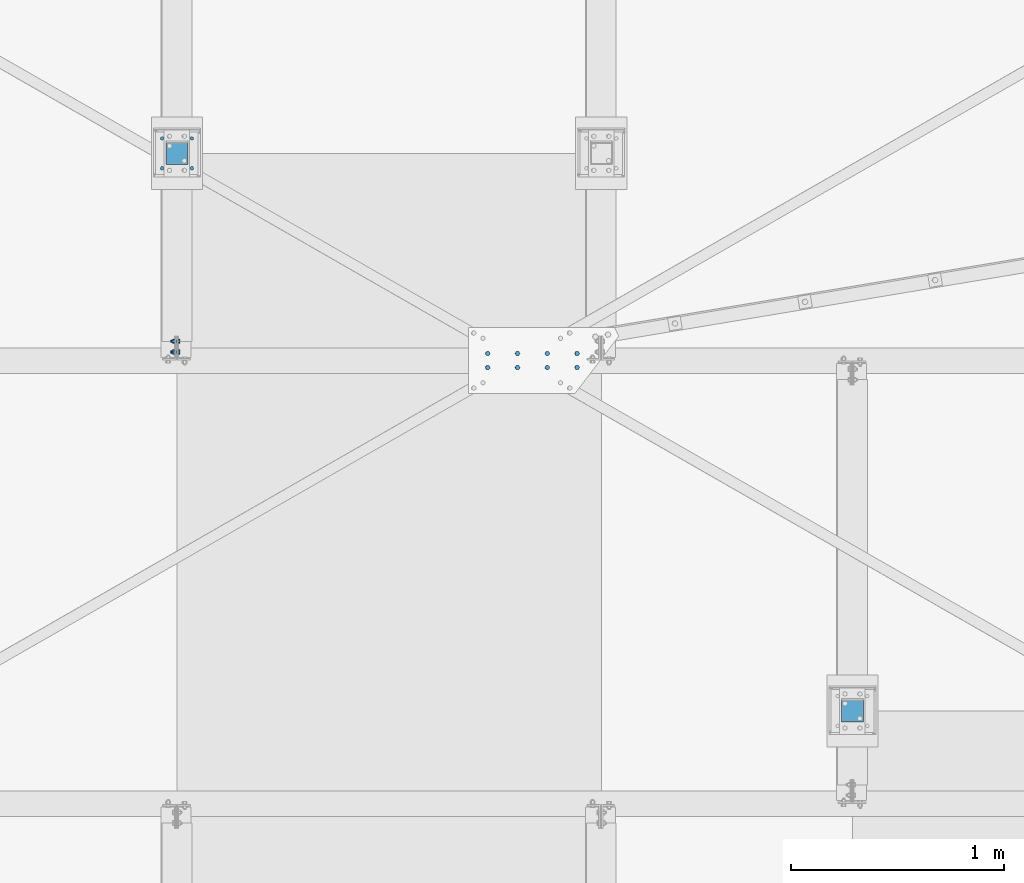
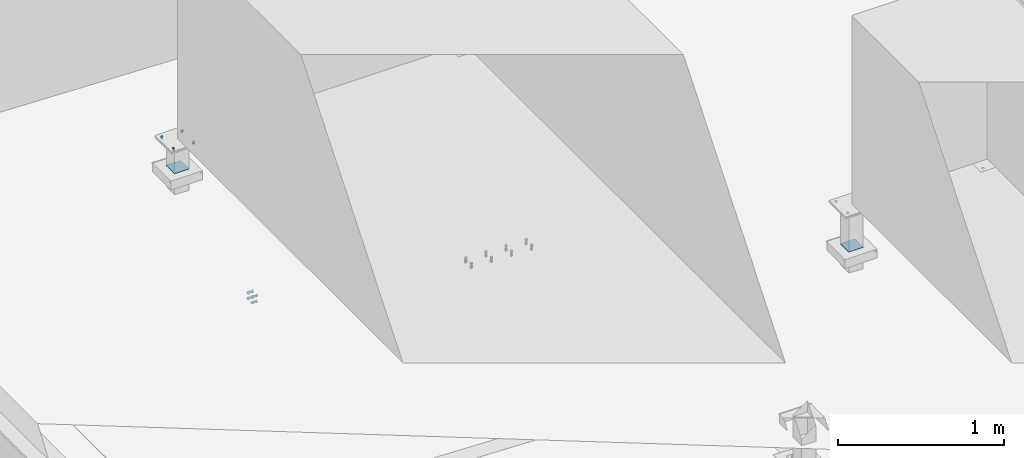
# One storey, part 384 of 3134: 5 mechanical fasteners, 4 elements without a shape of their own.
"""IFC2X3 building model written with IfcOpenShell, lengths in millimetres."""

from ifc_helpers import new_model, si_unit, frame, origin_with_axes, place, context, subcontext, project, spatial, faceted_brep, source, transform, mapped, material, type_object, element, aggregate, save


model = new_model("IFC2X3")

# Units and contexts
model_context = context("Model", 3, precision=1e-05, world=origin_with_axes())
body_context = subcontext(model_context, "Body", "Model", "MODEL_VIEW")
ifc_project = project(units=[si_unit("LENGTHUNIT", "METRE", prefix="MILLI"), si_unit("AREAUNIT", "SQUARE_METRE"), si_unit("VOLUMEUNIT", "CUBIC_METRE"), si_unit("MASSUNIT", "GRAM", prefix="KILO"), si_unit("TIMEUNIT", "SECOND"), si_unit("PLANEANGLEUNIT", "RADIAN"), si_unit("SOLIDANGLEUNIT", "STERADIAN"), si_unit("THERMODYNAMICTEMPERATUREUNIT", "DEGREE_CELSIUS"), si_unit("LUMINOUSINTENSITYUNIT", "LUMEN")], contexts=[model_context])

# Site, building, storey
site_placement = place(None, origin_with_axes())
site = spatial("IfcSite", under=ifc_project, at=site_placement, CompositionType="ELEMENT")
building_placement = place(site_placement, origin_with_axes())
building = spatial("IfcBuilding", under=site, at=building_placement, Name="Undefined", CompositionType="ELEMENT")
storey_placement = place(building_placement, origin_with_axes())
storey = spatial("IfcBuildingStorey", under=building, at=storey_placement, Name="Undefined", CompositionType="ELEMENT", Elevation=0.0)

# Assembly, mechanical fastener
assembly_1_placement = place(storey_placement, origin_with_axes())
assembly_1 = element("IfcElementAssembly", 1, at=assembly_1_placement, inside=storey, AssemblyPlace="NOTDEFINED", PredefinedType="RIGID_FRAME")
ifc_material_1 = material(Name="6.8")
mechanical_fastener_type = type_object("IfcMechanicalFastenerType", Name="Bolt assembly")
shared_shape_1 = source(origin_with_axes(), body_context, "Body", "Brep", [
    faceted_brep([(51.5, 1.36424205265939e-12, 50.0), (51.3858192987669, 1.36424205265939e-12, 50.5740251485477), (51.0606601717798, 1.36424205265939e-12, 51.0606601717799), (50.5740251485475, 1.36424205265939e-12, 51.385819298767), (-50.0000000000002, 1.36424205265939e-12, 51.5), (-50.7500000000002, 1.36424205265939e-12, 51.2990381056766), (-51.2990381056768, 1.36424205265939e-12, 50.7499999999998), (-51.5, 1.36424205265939e-12, 49.9999999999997), (-51.5, 1.36424205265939e-12, -50.0000000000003), (-51.2990381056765, 1.36424205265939e-12, -50.7500000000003), (-50.7499999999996, 1.36424205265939e-12, -51.2990381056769), (-49.9999999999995, 1.36424205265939e-12, -51.5), (50.0000000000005, 1.36424205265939e-12, -51.5), (50.7500000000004, 1.36424205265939e-12, -51.2990381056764), (51.2990381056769, 1.36424205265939e-12, -50.7499999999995), (51.5, 1.36424205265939e-12, -49.9999999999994), (51.5, 5.10000000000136, -49.9999999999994), (51.2990381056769, 5.10000000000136, -50.7499999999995), (50.7500000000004, 5.10000000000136, -51.2990381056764), (50.0000000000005, 5.10000000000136, -51.5), (-49.9999999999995, 5.10000000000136, -51.5), (-50.7499999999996, 5.10000000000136, -51.2990381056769), (-51.2990381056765, 5.10000000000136, -50.7500000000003), (-51.5, 5.10000000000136, -50.0000000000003), (-51.5, 5.10000000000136, 49.9999999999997), (-51.2990381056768, 5.10000000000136, 50.7499999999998), (-50.7500000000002, 5.10000000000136, 51.2990381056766), (-50.0000000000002, 5.10000000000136, 51.5), (50.5740251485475, 5.10000000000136, 51.385819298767), (51.0606601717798, 5.10000000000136, 51.0606601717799), (51.3858192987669, 5.10000000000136, 50.5740251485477), (51.5, 5.10000000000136, 50.0)], [[[0, 1, 2, 3, 4, 5, 6, 7, 8, 9, 10, 11, 12, 13, 14, 15]], [[16, 17, 18, 19, 20, 21, 22, 23, 24, 25, 26, 27, 28, 29, 30, 31]], [[0, 31, 30, 1]], [[1, 30, 29, 2]], [[2, 29, 28, 3]], [[3, 28, 27, 4]], [[4, 27, 26, 5]], [[5, 26, 25, 6]], [[6, 25, 24, 7]], [[7, 24, 23, 8]], [[8, 23, 22, 9]], [[9, 22, 21, 10]], [[10, 21, 20, 11]], [[11, 20, 19, 12]], [[12, 19, 18, 13]], [[13, 18, 17, 14]], [[14, 17, 16, 15]], [[15, 16, 31, 0]]]),
])
mechanical_fastener_1_placement = place(assembly_1_placement, frame((73830.0, 24940.0, 4274.22), z_axis=(0.0, -1.0, 0.0), x_axis=(-1.0, 0.0, 0.0)))
mechanical_fastener_1 = element("IfcMechanicalFastener", 2, at=mechanical_fastener_1_placement, type_object=mechanical_fastener_type, material=ifc_material_1, Name="Bolt assembly", NominalDiameter=10.0, NominalLength=5.0, context=body_context, shape_type="MappedRepresentation", body=[
    mapped(shared_shape_1, transform((0.0, 0.0, 0.0))),
])

assembly_2_placement = place(storey_placement, origin_with_axes())
assembly_2 = element("IfcElementAssembly", 3, at=assembly_2_placement, inside=storey, AssemblyPlace="NOTDEFINED", PredefinedType="RIGID_FRAME")
mechanical_fastener_2_placement = place(assembly_2_placement, frame((77004.0, 22320.0, 4175.8), z_axis=(0.0, -1.0, 0.0), x_axis=(-1.0, 0.0, 0.0)))
mechanical_fastener_2 = element("IfcMechanicalFastener", 4, at=mechanical_fastener_2_placement, type_object=mechanical_fastener_type, material=ifc_material_1, Name="Bolt assembly", NominalDiameter=10.0, NominalLength=5.0, context=body_context, shape_type="MappedRepresentation", body=[
    mapped(shared_shape_1, transform((0.0, 0.0, 0.0))),
])
aggregate(assembly_2, [mechanical_fastener_2])

assembly_3_placement = place(storey_placement, origin_with_axes())
assembly_3 = element("IfcElementAssembly", 5, at=assembly_3_placement, inside=storey, AssemblyPlace="NOTDEFINED", PredefinedType="RIGID_FRAME")
ifc_material_2 = material(Name="8.8")
shared_shape_2 = source(origin_with_axes(), body_context, "Body", "Brep", [
    faceted_brep([(10.9696551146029, -14.250187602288, 0.0), (5.48482755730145, -14.250187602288, 9.5), (-5.48482755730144, -14.250187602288, 9.5), (-10.9696551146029, -14.250187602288, 1.34339530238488e-15), (-5.48482755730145, -14.250187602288, -9.5), (5.48482755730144, -14.250187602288, -9.50000000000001), (5.48482755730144, -6.25018760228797, -9.50000000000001), (-5.48482755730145, -6.25018760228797, -9.5), (-10.9696551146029, -6.25018760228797, 1.34339530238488e-15), (-5.48482755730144, -6.25018760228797, 9.5), (5.48482755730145, -6.25018760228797, 9.5), (10.9696551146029, -6.25018760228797, 0.0), (6.0, -6.25018760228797, 0.0), (5.19615242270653, -6.25018760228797, 3.00000000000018), (2.99999999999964, -6.25018760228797, 5.19615242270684), (-6.21801588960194e-13, -6.25018760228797, 6.0), (-3.00000000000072, -6.25018760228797, 5.19615242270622), (-5.19615242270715, -6.25018760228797, 2.9999999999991), (-6.0, -6.25018760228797, -1.24360317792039e-12), (-5.19615242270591, -6.25018760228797, -3.00000000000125), (-2.99999999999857, -6.25018760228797, -5.19615242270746), (1.85874342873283e-12, -6.25018760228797, -6.0), (3.00000000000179, -6.25018760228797, -5.1961524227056), (5.19615242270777, -6.25018760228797, -2.99999999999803), (5.19615242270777, 28.749812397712, -2.99999999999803), (3.00000000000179, 28.749812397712, -5.1961524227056), (1.85874342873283e-12, 28.749812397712, -6.0), (-2.99999999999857, 28.749812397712, -5.19615242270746), (-5.19615242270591, 28.749812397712, -3.00000000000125), (-6.0, 28.749812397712, -1.24360317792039e-12), (-5.19615242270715, 28.749812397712, 2.9999999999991), (-3.00000000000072, 28.749812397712, 5.19615242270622), (-6.21801588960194e-13, 28.749812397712, 6.0), (2.99999999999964, 28.749812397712, 5.19615242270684), (5.19615242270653, 28.749812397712, 3.00000000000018), (6.0, 28.749812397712, 0.0), (10.9696551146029, 11.2575524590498, 0.0), (5.48482755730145, 11.2575524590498, 9.5), (-5.48482755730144, 11.2575524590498, 9.5), (-10.9696551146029, 11.2575524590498, 1.34339530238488e-15), (-5.48482755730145, 11.2575524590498, -9.5), (5.48482755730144, 11.2575524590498, -9.50000000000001), (5.48482755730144, 21.2575524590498, -9.50000000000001), (-5.48482755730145, 21.2575524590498, -9.5), (-10.9696551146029, 21.2575524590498, 1.34339530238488e-15), (-5.48482755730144, 21.2575524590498, 9.5), (5.48482755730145, 21.2575524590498, 9.5), (10.9696551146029, 21.2575524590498, 0.0)], [[[0, 1, 2, 3, 4, 5]], [[6, 7, 8, 9, 10, 11]], [[0, 11, 10, 1]], [[1, 10, 9, 2]], [[2, 9, 8, 3]], [[3, 8, 7, 4]], [[4, 7, 6, 5]], [[5, 6, 11, 0]], [[12, 13, 14, 15, 16, 17, 18, 19, 20, 21, 22, 23]], [[24, 25, 26, 27, 28, 29, 30, 31, 32, 33, 34, 35]], [[12, 35, 34, 13]], [[13, 34, 33, 14]], [[14, 33, 32, 15]], [[15, 32, 31, 16]], [[16, 31, 30, 17]], [[17, 30, 29, 18]], [[18, 29, 28, 19]], [[19, 28, 27, 20]], [[20, 27, 26, 21]], [[21, 26, 25, 22]], [[22, 25, 24, 23]], [[23, 24, 35, 12]], [[36, 37, 38, 39, 40, 41]], [[42, 43, 44, 45, 46, 47]], [[36, 47, 46, 37]], [[37, 46, 45, 38]], [[38, 45, 44, 39]], [[39, 44, 43, 40]], [[40, 43, 42, 41]], [[41, 42, 47, 36]]]),
    faceted_brep([(7.0, 5.15755245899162, 0.0), (6.06217782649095, 5.15755245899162, 3.50000000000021), (3.49999999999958, 5.15755245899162, 6.06217782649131), (-7.25435187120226e-13, 5.15755245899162, 7.0), (-3.50000000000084, 5.15755245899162, 6.06217782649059), (-6.06217782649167, 5.15755245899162, 3.49999999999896), (-7.0, 5.15755245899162, -1.45087037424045e-12), (-6.06217782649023, 5.15755245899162, -3.50000000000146), (-3.49999999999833, 5.15755245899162, -6.06217782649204), (2.1685340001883e-12, 5.15755245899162, -7.0), (3.50000000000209, 5.15755245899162, -6.06217782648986), (6.0621778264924, 5.15755245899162, -3.4999999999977), (6.0621778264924, 11.2575524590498, -3.4999999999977), (3.50000000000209, 11.2575524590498, -6.06217782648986), (2.1685340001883e-12, 11.2575524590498, -7.0), (-3.49999999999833, 11.2575524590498, -6.06217782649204), (-6.06217782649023, 11.2575524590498, -3.50000000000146), (-7.0, 11.2575524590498, -1.45087037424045e-12), (-6.06217782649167, 11.2575524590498, 3.49999999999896), (-3.50000000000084, 11.2575524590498, 6.06217782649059), (-7.25435187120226e-13, 11.2575524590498, 7.0), (3.49999999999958, 11.2575524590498, 6.06217782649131), (6.06217782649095, 11.2575524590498, 3.50000000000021), (7.0, 11.2575524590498, 0.0), (7.0, -6.15018760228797, 0.0), (6.06217782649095, -6.15018760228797, 3.50000000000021), (3.49999999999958, -6.15018760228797, 6.06217782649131), (-7.25435187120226e-13, -6.15018760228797, 7.0), (-3.50000000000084, -6.15018760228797, 6.06217782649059), (-6.06217782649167, -6.15018760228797, 3.49999999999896), (-7.0, -6.15018760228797, -1.45087037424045e-12), (-6.06217782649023, -6.15018760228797, -3.50000000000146), (-3.49999999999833, -6.15018760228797, -6.06217782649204), (2.1685340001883e-12, -6.15018760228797, -7.0), (3.50000000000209, -6.15018760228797, -6.06217782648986), (6.0621778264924, -6.15018760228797, -3.4999999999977), (6.0621778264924, -0.150187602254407, -3.4999999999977), (3.50000000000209, -0.150187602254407, -6.06217782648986), (2.1685340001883e-12, -0.150187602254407, -7.0), (-3.49999999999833, -0.150187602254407, -6.06217782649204), (-6.06217782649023, -0.150187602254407, -3.50000000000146), (-7.0, -0.150187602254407, -1.45087037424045e-12), (-6.06217782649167, -0.150187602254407, 3.49999999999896), (-3.50000000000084, -0.150187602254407, 6.06217782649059), (-7.25435187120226e-13, -0.150187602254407, 7.0), (3.49999999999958, -0.150187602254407, 6.06217782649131), (6.06217782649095, -0.150187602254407, 3.50000000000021), (7.0, -0.150187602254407, 0.0), (7.0, -0.244833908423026, 0.0), (6.06217782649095, -0.244833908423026, 3.50000000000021), (3.49999999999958, -0.244833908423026, 6.06217782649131), (-7.25435187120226e-13, -0.244833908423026, 7.0), (-3.50000000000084, -0.244833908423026, 6.06217782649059), (-6.06217782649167, -0.244833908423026, 3.49999999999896), (-7.0, -0.244833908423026, -1.45087037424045e-12), (-6.06217782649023, -0.244833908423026, -3.50000000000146), (-3.49999999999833, -0.244833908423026, -6.06217782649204), (2.1685340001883e-12, -0.244833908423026, -7.0), (3.50000000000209, -0.244833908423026, -6.06217782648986), (6.0621778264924, -0.244833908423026, -3.4999999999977), (6.0621778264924, 5.25516609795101, -3.4999999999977), (3.50000000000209, 5.25516609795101, -6.06217782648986), (2.1685340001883e-12, 5.25516609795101, -7.0), (-3.49999999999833, 5.25516609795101, -6.06217782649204), (-6.06217782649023, 5.25516609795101, -3.50000000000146), (-7.0, 5.25516609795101, -1.45087037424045e-12), (-6.06217782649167, 5.25516609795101, 3.49999999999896), (-3.50000000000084, 5.25516609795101, 6.06217782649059), (-7.25435187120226e-13, 5.25516609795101, 7.0), (3.49999999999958, 5.25516609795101, 6.06217782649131), (6.06217782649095, 5.25516609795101, 3.50000000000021), (7.0, 5.25516609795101, 0.0)], [[[0, 1, 2, 3, 4, 5, 6, 7, 8, 9, 10, 11]], [[12, 13, 14, 15, 16, 17, 18, 19, 20, 21, 22, 23]], [[0, 23, 22, 1]], [[1, 22, 21, 2]], [[2, 21, 20, 3]], [[3, 20, 19, 4]], [[4, 19, 18, 5]], [[5, 18, 17, 6]], [[6, 17, 16, 7]], [[7, 16, 15, 8]], [[8, 15, 14, 9]], [[9, 14, 13, 10]], [[10, 13, 12, 11]], [[11, 12, 23, 0]], [[24, 25, 26, 27, 28, 29, 30, 31, 32, 33, 34, 35]], [[36, 37, 38, 39, 40, 41, 42, 43, 44, 45, 46, 47]], [[24, 47, 46, 25]], [[25, 46, 45, 26]], [[26, 45, 44, 27]], [[27, 44, 43, 28]], [[28, 43, 42, 29]], [[29, 42, 41, 30]], [[30, 41, 40, 31]], [[31, 40, 39, 32]], [[32, 39, 38, 33]], [[33, 38, 37, 34]], [[34, 37, 36, 35]], [[35, 36, 47, 24]], [[48, 49, 50, 51, 52, 53, 54, 55, 56, 57, 58, 59]], [[60, 61, 62, 63, 64, 65, 66, 67, 68, 69, 70, 71]], [[48, 71, 70, 49]], [[49, 70, 69, 50]], [[50, 69, 68, 51]], [[51, 68, 67, 52]], [[52, 67, 66, 53]], [[53, 66, 65, 54]], [[54, 65, 64, 55]], [[55, 64, 63, 56]], [[56, 63, 62, 57]], [[57, 62, 61, 58]], [[58, 61, 60, 59]], [[59, 60, 71, 48]]]),
])
mechanical_fastener_3_placement = place(assembly_3_placement, frame((73830.0752897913, 24006.68, 3871.04754927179), z_axis=(0.0309396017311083, 0.0, 0.999521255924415), x_axis=(0.0, 1.0, 0.0)))
mechanical_fastener_3 = element("IfcMechanicalFastener", 6, at=mechanical_fastener_3_placement, type_object=mechanical_fastener_type, material=ifc_material_2, Name="Bolt assembly", NominalDiameter=12.0, NominalLength=35.0, context=body_context, shape_type="MappedRepresentation", body=[
    mapped(shared_shape_2, transform((0.0, 0.0, -21.0))),
    mapped(shared_shape_2, transform((50.0, -1.01863406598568e-10, -20.9999999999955))),
    mapped(shared_shape_2, transform((0.0, 0.0, 21.0))),
    mapped(shared_shape_2, transform((50.0, 1.30967237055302e-10, 20.9999999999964))),
])
aggregate(assembly_3, [mechanical_fastener_3])

# Mechanical fastener
shared_shape_3 = source(origin_with_axes(), body_context, "Body", "Brep", [
    faceted_brep([(7.0, -4.90000000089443, 0.0), (6.06217782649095, -4.90000000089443, 3.50000000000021), (3.49999999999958, -4.90000000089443, 6.06217782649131), (-7.25435187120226e-13, -4.90000000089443, 7.0), (-3.50000000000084, -4.90000000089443, 6.06217782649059), (-6.06217782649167, -4.90000000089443, 3.49999999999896), (-7.0, -4.90000000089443, -1.45087037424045e-12), (-6.06217782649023, -4.90000000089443, -3.50000000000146), (-3.49999999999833, -4.90000000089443, -6.06217782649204), (2.1685340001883e-12, -4.90000000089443, -7.0), (3.50000000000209, -4.90000000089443, -6.06217782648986), (6.0621778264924, -4.90000000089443, -3.4999999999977), (6.0621778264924, 0.0999999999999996, -3.4999999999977), (3.50000000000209, 0.0999999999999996, -6.06217782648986), (2.1685340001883e-12, 0.0999999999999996, -7.0), (-3.49999999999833, 0.0999999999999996, -6.06217782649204), (-6.06217782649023, 0.0999999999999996, -3.50000000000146), (-7.0, 0.0999999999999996, -1.45087037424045e-12), (-6.06217782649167, 0.0999999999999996, 3.49999999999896), (-3.50000000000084, 0.0999999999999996, 6.06217782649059), (-7.25435187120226e-13, 0.0999999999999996, 7.0), (3.49999999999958, 0.0999999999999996, 6.06217782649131), (6.06217782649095, 0.0999999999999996, 3.50000000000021), (7.0, 0.0999999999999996, 0.0), (7.0, -0.1, 0.0), (6.06217782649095, -0.1, 3.50000000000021), (3.49999999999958, -0.1, 6.06217782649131), (-7.25435187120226e-13, -0.1, 7.0), (-3.50000000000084, -0.1, 6.06217782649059), (-6.06217782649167, -0.1, 3.49999999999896), (-7.0, -0.1, -1.45087037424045e-12), (-6.06217782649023, -0.1, -3.50000000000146), (-3.49999999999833, -0.1, -6.06217782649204), (2.1685340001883e-12, -0.1, -7.0), (3.50000000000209, -0.1, -6.06217782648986), (6.0621778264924, -0.1, -3.4999999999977), (6.0621778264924, 10.0, -3.4999999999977), (3.50000000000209, 10.0, -6.06217782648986), (2.1685340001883e-12, 10.0, -7.0), (-3.49999999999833, 10.0, -6.06217782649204), (-6.06217782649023, 10.0, -3.50000000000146), (-7.0, 10.0, -1.45087037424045e-12), (-6.06217782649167, 10.0, 3.49999999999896), (-3.50000000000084, 10.0, 6.06217782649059), (-7.25435187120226e-13, 10.0, 7.0), (3.49999999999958, 10.0, 6.06217782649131), (6.06217782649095, 10.0, 3.50000000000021), (7.0, 10.0, 0.0)], [[[0, 1, 2, 3, 4, 5, 6, 7, 8, 9, 10, 11]], [[12, 13, 14, 15, 16, 17, 18, 19, 20, 21, 22, 23]], [[0, 23, 22, 1]], [[1, 22, 21, 2]], [[2, 21, 20, 3]], [[3, 20, 19, 4]], [[4, 19, 18, 5]], [[5, 18, 17, 6]], [[6, 17, 16, 7]], [[7, 16, 15, 8]], [[8, 15, 14, 9]], [[9, 14, 13, 10]], [[10, 13, 12, 11]], [[11, 12, 23, 0]], [[24, 25, 26, 27, 28, 29, 30, 31, 32, 33, 34, 35]], [[36, 37, 38, 39, 40, 41, 42, 43, 44, 45, 46, 47]], [[24, 47, 46, 25]], [[25, 46, 45, 26]], [[26, 45, 44, 27]], [[27, 44, 43, 28]], [[28, 43, 42, 29]], [[29, 42, 41, 30]], [[30, 41, 40, 31]], [[31, 40, 39, 32]], [[32, 39, 38, 33]], [[33, 38, 37, 34]], [[34, 37, 36, 35]], [[35, 36, 47, 24]]]),
])
mechanical_fastener_4_placement = place(assembly_1_placement, frame((73830.0, 24870.0, 4475.0), z_axis=(-1.0, 0.0, 0.0), x_axis=(0.0, 1.0, 0.0)))
mechanical_fastener_4 = element("IfcMechanicalFastener", 7, at=mechanical_fastener_4_placement, type_object=mechanical_fastener_type, material=ifc_material_2, Name="Bolt assembly", NominalDiameter=12.0, NominalLength=15.0, context=body_context, shape_type="MappedRepresentation", body=[
    mapped(shared_shape_3, transform((0.0, 0.0, -70.0))),
    mapped(shared_shape_3, transform((140.0, 0.0, -70.0))),
    mapped(shared_shape_3, transform((0.0, 0.0, 70.0))),
    mapped(shared_shape_3, transform((140.0, 0.0, 70.0))),
])

aggregate(assembly_1, [mechanical_fastener_1, mechanical_fastener_4])

# Assembly, mechanical fastener
assembly_4_placement = place(storey_placement, origin_with_axes())
assembly_4 = element("IfcElementAssembly", 8, at=assembly_4_placement, inside=storey, Name="IPE240", AssemblyPlace="NOTDEFINED", PredefinedType="RIGID_FRAME")
shared_shape_4 = source(origin_with_axes(), body_context, "Body", "Brep", [
    faceted_brep([(10.9696551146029, -17.8000021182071, 0.0), (5.48482755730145, -17.8000021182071, 9.5), (-5.48482755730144, -17.8000021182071, 9.5), (-10.9696551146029, -17.8000021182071, 1.34339530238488e-15), (-5.48482755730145, -17.8000021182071, -9.5), (5.48482755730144, -17.8000021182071, -9.50000000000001), (5.48482755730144, -9.80000211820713, -9.50000000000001), (-5.48482755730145, -9.80000211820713, -9.5), (-10.9696551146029, -9.80000211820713, 1.34339530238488e-15), (-5.48482755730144, -9.80000211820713, 9.5), (5.48482755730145, -9.80000211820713, 9.5), (10.9696551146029, -9.80000211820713, 0.0), (6.0, -9.80000211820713, 0.0), (5.19615242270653, -9.80000211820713, 3.00000000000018), (2.99999999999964, -9.80000211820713, 5.19615242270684), (-6.21801588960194e-13, -9.80000211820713, 6.0), (-3.00000000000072, -9.80000211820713, 5.19615242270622), (-5.19615242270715, -9.80000211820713, 2.9999999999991), (-6.0, -9.80000211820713, -1.24360317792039e-12), (-5.19615242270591, -9.80000211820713, -3.00000000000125), (-2.99999999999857, -9.80000211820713, -5.19615242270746), (1.85874342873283e-12, -9.80000211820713, -6.0), (3.00000000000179, -9.80000211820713, -5.1961524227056), (5.19615242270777, -9.80000211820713, -2.99999999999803), (5.19615242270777, 25.1999978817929, -2.99999999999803), (3.00000000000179, 25.1999978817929, -5.1961524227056), (1.85874342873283e-12, 25.1999978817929, -6.0), (-2.99999999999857, 25.1999978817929, -5.19615242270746), (-5.19615242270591, 25.1999978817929, -3.00000000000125), (-6.0, 25.1999978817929, -1.24360317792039e-12), (-5.19615242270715, 25.1999978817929, 2.9999999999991), (-3.00000000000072, 25.1999978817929, 5.19615242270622), (-6.21801588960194e-13, 25.1999978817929, 6.0), (2.99999999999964, 25.1999978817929, 5.19615242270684), (5.19615242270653, 25.1999978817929, 3.00000000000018), (6.0, 25.1999978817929, 0.0), (10.9696551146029, 8.0, 0.0), (5.48482755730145, 8.0, 9.5), (-5.48482755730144, 8.0, 9.5), (-10.9696551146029, 8.0, 1.34339530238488e-15), (-5.48482755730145, 8.0, -9.5), (5.48482755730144, 8.0, -9.50000000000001), (5.48482755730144, 18.0, -9.50000000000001), (-5.48482755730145, 18.0, -9.5), (-10.9696551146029, 18.0, 1.34339530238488e-15), (-5.48482755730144, 18.0, 9.5), (5.48482755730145, 18.0, 9.5), (10.9696551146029, 18.0, 0.0)], [[[0, 1, 2, 3, 4, 5]], [[6, 7, 8, 9, 10, 11]], [[0, 11, 10, 1]], [[1, 10, 9, 2]], [[2, 9, 8, 3]], [[3, 8, 7, 4]], [[4, 7, 6, 5]], [[5, 6, 11, 0]], [[12, 13, 14, 15, 16, 17, 18, 19, 20, 21, 22, 23]], [[24, 25, 26, 27, 28, 29, 30, 31, 32, 33, 34, 35]], [[12, 35, 34, 13]], [[13, 34, 33, 14]], [[14, 33, 32, 15]], [[15, 32, 31, 16]], [[16, 31, 30, 17]], [[17, 30, 29, 18]], [[18, 29, 28, 19]], [[19, 28, 27, 20]], [[20, 27, 26, 21]], [[21, 26, 25, 22]], [[22, 25, 24, 23]], [[23, 24, 35, 12]], [[36, 37, 38, 39, 40, 41]], [[42, 43, 44, 45, 46, 47]], [[36, 47, 46, 37]], [[37, 46, 45, 38]], [[38, 45, 44, 39]], [[39, 44, 43, 40]], [[40, 43, 42, 41]], [[41, 42, 47, 36]]]),
    faceted_brep([(7.0, -0.1, 0.0), (6.06217782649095, -0.1, 3.50000000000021), (3.49999999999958, -0.1, 6.06217782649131), (-7.25435187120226e-13, -0.1, 7.0), (-3.50000000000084, -0.1, 6.06217782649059), (-6.06217782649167, -0.1, 3.49999999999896), (-7.0, -0.1, -1.45087037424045e-12), (-6.06217782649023, -0.1, -3.50000000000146), (-3.49999999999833, -0.1, -6.06217782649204), (2.1685340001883e-12, -0.1, -7.0), (3.50000000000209, -0.1, -6.06217782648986), (6.0621778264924, -0.1, -3.4999999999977), (6.0621778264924, 8.0000000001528, -3.4999999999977), (3.50000000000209, 8.0000000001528, -6.06217782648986), (2.1685340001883e-12, 8.0000000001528, -7.0), (-3.49999999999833, 8.0000000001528, -6.06217782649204), (-6.06217782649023, 8.0000000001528, -3.50000000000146), (-7.0, 8.0000000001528, -1.45087037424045e-12), (-6.06217782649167, 8.0000000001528, 3.49999999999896), (-3.50000000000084, 8.0000000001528, 6.06217782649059), (-7.25435187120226e-13, 8.0000000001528, 7.0), (3.49999999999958, 8.0000000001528, 6.06217782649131), (6.06217782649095, 8.0000000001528, 3.50000000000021), (7.0, 8.0000000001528, 0.0), (7.0, -9.70000211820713, 0.0), (6.06217782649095, -9.70000211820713, 3.50000000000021), (3.49999999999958, -9.70000211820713, 6.06217782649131), (-7.25435187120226e-13, -9.70000211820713, 7.0), (-3.50000000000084, -9.70000211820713, 6.06217782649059), (-6.06217782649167, -9.70000211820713, 3.49999999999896), (-7.0, -9.70000211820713, -1.45087037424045e-12), (-6.06217782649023, -9.70000211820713, -3.50000000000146), (-3.49999999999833, -9.70000211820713, -6.06217782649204), (2.1685340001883e-12, -9.70000211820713, -7.0), (3.50000000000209, -9.70000211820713, -6.06217782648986), (6.0621778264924, -9.70000211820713, -3.4999999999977), (6.0621778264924, 0.0999999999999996, -3.4999999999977), (3.50000000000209, 0.0999999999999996, -6.06217782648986), (2.1685340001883e-12, 0.0999999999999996, -7.0), (-3.49999999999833, 0.0999999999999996, -6.06217782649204), (-6.06217782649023, 0.0999999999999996, -3.50000000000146), (-7.0, 0.0999999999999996, -1.45087037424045e-12), (-6.06217782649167, 0.0999999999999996, 3.49999999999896), (-3.50000000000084, 0.0999999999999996, 6.06217782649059), (-7.25435187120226e-13, 0.0999999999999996, 7.0), (3.49999999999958, 0.0999999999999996, 6.06217782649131), (6.06217782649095, 0.0999999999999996, 3.50000000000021), (7.0, 0.0999999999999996, 0.0)], [[[0, 1, 2, 3, 4, 5, 6, 7, 8, 9, 10, 11]], [[12, 13, 14, 15, 16, 17, 18, 19, 20, 21, 22, 23]], [[0, 23, 22, 1]], [[1, 22, 21, 2]], [[2, 21, 20, 3]], [[3, 20, 19, 4]], [[4, 19, 18, 5]], [[5, 18, 17, 6]], [[6, 17, 16, 7]], [[7, 16, 15, 8]], [[8, 15, 14, 9]], [[9, 14, 13, 10]], [[10, 13, 12, 11]], [[11, 12, 23, 0]], [[24, 25, 26, 27, 28, 29, 30, 31, 32, 33, 34, 35]], [[36, 37, 38, 39, 40, 41, 42, 43, 44, 45, 46, 47]], [[24, 47, 46, 25]], [[25, 46, 45, 26]], [[26, 45, 44, 27]], [[27, 44, 43, 28]], [[28, 43, 42, 29]], [[29, 42, 41, 30]], [[30, 41, 40, 31]], [[31, 40, 39, 32]], [[32, 39, 38, 33]], [[33, 38, 37, 34]], [[34, 37, 36, 35]], [[35, 36, 47, 24]]]),
])
mechanical_fastener_5_placement = place(assembly_4_placement, frame((75709.9487415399, 23966.6674358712, 3639.14134400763), z_axis=(-5.10000051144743e-06, -0.999999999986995, 0.0), x_axis=(-0.999519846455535, 5.50000025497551e-06, 0.0309851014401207)))
mechanical_fastener_5 = element("IfcMechanicalFastener", 9, at=mechanical_fastener_5_placement, type_object=mechanical_fastener_type, material=ifc_material_2, Name="Bolt assembly", NominalDiameter=12.0, NominalLength=35.0, context=body_context, shape_type="MappedRepresentation", body=[
    mapped(shared_shape_4, transform((0.0, 0.0, -33.0))),
    mapped(shared_shape_4, transform((140.000000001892, -1.64072844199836e-09, -32.9999999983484))),
    mapped(shared_shape_4, transform((280.000000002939, -3.56703822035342e-09, -32.9999999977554))),
    mapped(shared_shape_4, transform((420.000000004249, -5.35692379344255e-09, -32.9999999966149))),
    mapped(shared_shape_4, transform((0.0, 0.0, 33.0))),
    mapped(shared_shape_4, transform((140.000000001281, -1.73167791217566e-09, 33.0000000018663))),
    mapped(shared_shape_4, transform((280.000000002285, -3.59614205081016e-09, 33.0000000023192))),
    mapped(shared_shape_4, transform((420.000000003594, -5.38784661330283e-09, 33.0000000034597))),
])
aggregate(assembly_4, [mechanical_fastener_5])

save(model, "model.ifc")
